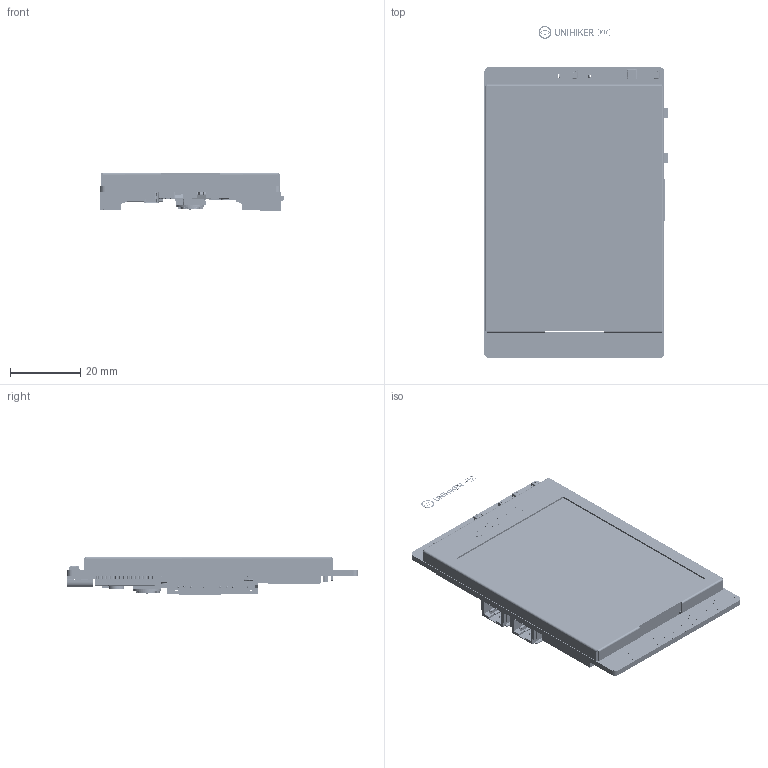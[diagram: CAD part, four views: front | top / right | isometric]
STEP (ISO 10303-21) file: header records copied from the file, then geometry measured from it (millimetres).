
FILE_DESCRIPTION(/* description */ (''),/* implementation_level */ '2;1');
FILE_NAME(/* name */ 'DFR0992',/* time_stamp */ '2024-07-30T13:47:15+08:00',/* author */ (''),/* organization */ (''),/* preprocessor_version */ 'ST-DEVELOPER v16.5',/* originating_system */ '',/* authorisation */ '');
FILE_SCHEMA (('AUTOMOTIVE_DESIGN'));
Products named in the file (1): Document
Bounding box: 52.42 x 94.7 x 10.9 mm (x, y, z)
Volume: 20748.8 mm3; surface area: 49176.1 mm2
Topology: 583 solids, 805 shells, 21490 faces, 56038 edges, 36373 vertices
Faces by surface type: plane 11081, bspline 10409
Entity records: 758389 total; most frequent: CARTESIAN_POINT 395096, ORIENTED_EDGE 110313, EDGE_CURVE 55926, B_SPLINE_CURVE_WITH_KNOTS 47135, VERTEX_POINT 36375, EDGE_LOOP 22429, ADVANCED_FACE 21490, FACE_OUTER_BOUND 21490
